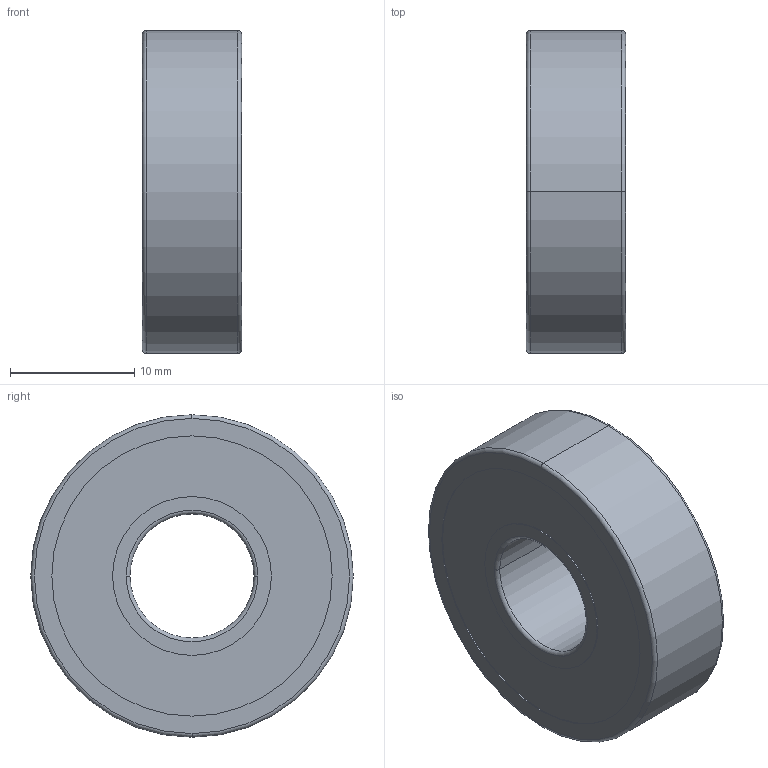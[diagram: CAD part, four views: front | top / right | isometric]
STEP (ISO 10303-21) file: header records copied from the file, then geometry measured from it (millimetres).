
FILE_DESCRIPTION (( 'STEP AP214' ), '1' );
FILE_NAME ('ワーク.STEP', '2025-07-28T03:08:23', ( '' ), ( '' ), 'SwSTEP 2.0', 'SolidWorks 2023', '' );
FILE_SCHEMA (( 'AUTOMOTIVE_DESIGN' ));
Length unit declared in the file: millimetre
Products named in the file (6): 6000ZZ Shield1; 6000ZZ Ball; 6000ZZ Shield2; 6000ZZ Inner ring; 6000ZZ Outer ring; ワーク
Assembly tree (17 placements, depth 2):
  ワーク
    6000ZZ Outer ring
    6000ZZ Shield1
    6000ZZ Inner ring
    6000ZZ Ball  x13
    6000ZZ Shield2
Bounding box: 8 x 26 x 26 mm (x, y, z)
Volume: 2542.9 mm3; surface area: 4111 mm2
Topology: 17 solids, 17 shells, 80 faces, 199 edges, 131 vertices
Faces by surface type: cylinder 28, sphere 26, torus 14, plane 12
Entity records: 2383 total; most frequent: DIRECTION 344, CARTESIAN_POINT 254, ORIENTED_EDGE 220, AXIS2_PLACEMENT_3D 158, EDGE_CURVE 110, CIRCLE 82, VERTEX_POINT 68, EDGE_LOOP 68
